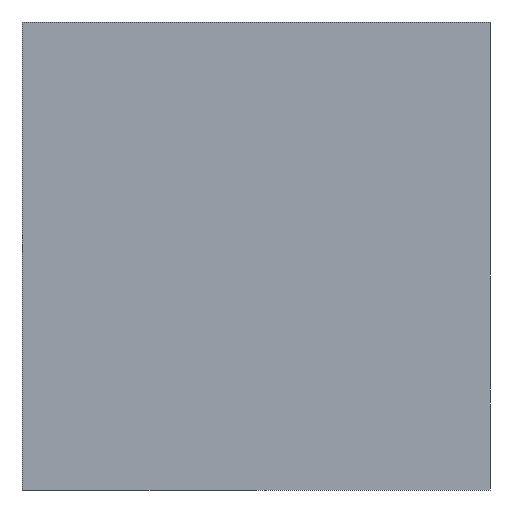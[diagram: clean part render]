
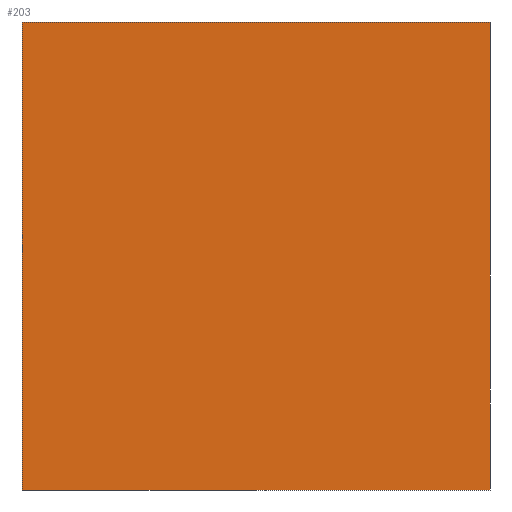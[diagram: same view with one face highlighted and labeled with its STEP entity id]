
A CAD part, left-side view. The second image highlights one B-rep face of the part: STEP entity #203.
In plain terms, the highlighted planar face has unit normal (-1, 0, 0).
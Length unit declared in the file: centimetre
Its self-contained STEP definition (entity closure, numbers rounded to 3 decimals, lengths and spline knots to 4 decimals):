
#6 = ORIENTED_EDGE ( 'NONE', *, *, #281, .T. ) ;
#7 = LINE ( 'NONE', #101, #137 ) ;
#22 = VECTOR ( 'NONE', #202, 100. ) ;
#28 = DIRECTION ( 'NONE',  ( 1., 0., 0. ) ) ;
#41 = CARTESIAN_POINT ( 'NONE',  ( 0., 1000., 0. ) ) ;
#43 = DIRECTION ( 'NONE',  ( 0., 0., -1. ) ) ;
#47 = VERTEX_POINT ( 'NONE', #290 ) ;
#58 = DIRECTION ( 'NONE',  ( 0., -1., 0. ) ) ;
#70 = ORIENTED_EDGE ( 'NONE', *, *, #339, .F. ) ;
#72 = CARTESIAN_POINT ( 'NONE',  ( 0., 0., 1000. ) ) ;
#84 = DIRECTION ( 'NONE',  ( 0., 0., -1. ) ) ;
#91 = LINE ( 'NONE', #234, #326 ) ;
#101 = CARTESIAN_POINT ( 'NONE',  ( 0., 1000., 1000. ) ) ;
#107 = VERTEX_POINT ( 'NONE', #41 ) ;
#137 = VECTOR ( 'NONE', #412, 100. ) ;
#142 = LINE ( 'NONE', #367, #22 ) ;
#202 = DIRECTION ( 'NONE',  ( 0., 0., -1. ) ) ;
#203 = ADVANCED_FACE ( 'NONE', ( #341 ), #275, .F. ) ;
#213 = CARTESIAN_POINT ( 'NONE',  ( 0., 1000., 1000. ) ) ;
#223 = EDGE_CURVE ( 'NONE', #369, #107, #142, .T. ) ;
#234 = CARTESIAN_POINT ( 'NONE',  ( 0., 1000., 0. ) ) ;
#254 = ORIENTED_EDGE ( 'NONE', *, *, #358, .F. ) ;
#263 = ORIENTED_EDGE ( 'NONE', *, *, #223, .T. ) ;
#275 = PLANE ( 'NONE',  #379 ) ;
#281 = EDGE_CURVE ( 'NONE', #107, #47, #91, .T. ) ;
#285 = CARTESIAN_POINT ( 'NONE',  ( 0., 0., 1000. ) ) ;
#290 = CARTESIAN_POINT ( 'NONE',  ( 0., 0., 0. ) ) ;
#321 = EDGE_LOOP ( 'NONE', ( #6, #70, #254, #263 ) ) ;
#326 = VECTOR ( 'NONE', #58, 100. ) ;
#339 = EDGE_CURVE ( 'NONE', #355, #47, #351, .T. ) ;
#341 = FACE_OUTER_BOUND ( 'NONE', #321, .T. ) ;
#348 = CARTESIAN_POINT ( 'NONE',  ( 0., 1000., 1000. ) ) ;
#351 = LINE ( 'NONE', #285, #398 ) ;
#355 = VERTEX_POINT ( 'NONE', #72 ) ;
#358 = EDGE_CURVE ( 'NONE', #369, #355, #7, .T. ) ;
#367 = CARTESIAN_POINT ( 'NONE',  ( 0., 1000., 1000. ) ) ;
#369 = VERTEX_POINT ( 'NONE', #348 ) ;
#379 = AXIS2_PLACEMENT_3D ( 'NONE', #213, #28, #84 ) ;
#398 = VECTOR ( 'NONE', #43, 100. ) ;
#412 = DIRECTION ( 'NONE',  ( 0., -1., 0. ) ) ;
